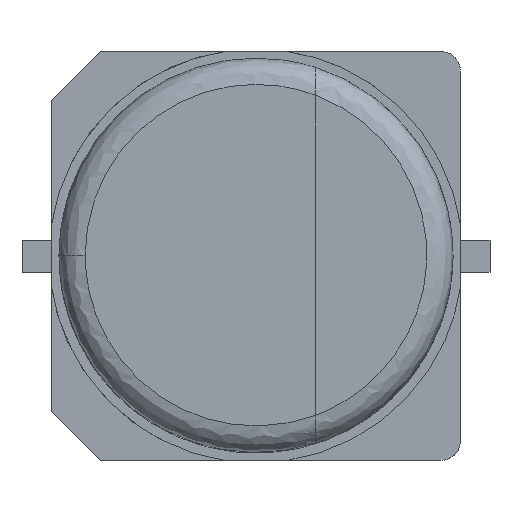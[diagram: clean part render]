
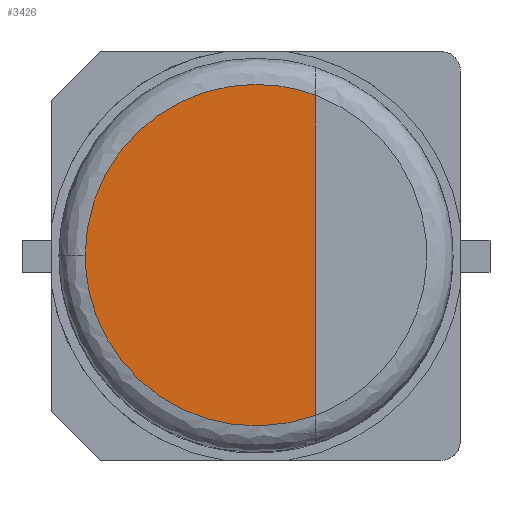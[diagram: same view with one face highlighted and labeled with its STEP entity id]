
A CAD part, top view. The second image highlights one B-rep face of the part: STEP entity #3426.
In plain terms, the highlighted free-form (B-spline) face has degree [1, 1] with [2, 2] control points.
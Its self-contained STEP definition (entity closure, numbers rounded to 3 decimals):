
#2530 = ( BOUNDED_SURFACE() B_SPLINE_SURFACE(2,2,(
    (#2531,#2532,#2533)
    ,(#2534,#2535,#2536)
    ,(#2537,#2538,#2539
)),.UNSPECIFIED.,.F.,.F.,.F.) B_SPLINE_SURFACE_WITH_KNOTS((3,3),(3,3),(
    4.359,6.283),(0.,1.571),
.PIECEWISE_BEZIER_KNOTS.) GEOMETRIC_REPRESENTATION_ITEM() 
RATIONAL_B_SPLINE_SURFACE((
    (1.,0.707,1.)
    ,(0.572,0.404,0.572)
,(1.,0.707,1.))) REPRESENTATION_ITEM('') SURFACE() );
#2531 = CARTESIAN_POINT('',(1.385,3.753,9.656));
#2532 = CARTESIAN_POINT('',(1.385,3.753,10.2));
#2533 = CARTESIAN_POINT('',(1.2,3.252,10.2));
#2534 = CARTESIAN_POINT('',(-4.,5.739,9.656));
#2535 = CARTESIAN_POINT('',(-4.,5.739,10.2));
#2536 = CARTESIAN_POINT('',(-3.467,4.974,10.2));
#2537 = CARTESIAN_POINT('',(-4.,0.,9.656));
#2538 = CARTESIAN_POINT('',(-4.,0.,10.2));
#2539 = CARTESIAN_POINT('',(-3.467,0.,10.2));
#2709 = ( BOUNDED_SURFACE() B_SPLINE_SURFACE(2,2,(
    (#2710,#2711,#2712)
    ,(#2713,#2714,#2715)
    ,(#2716,#2717,#2718
)),.UNSPECIFIED.,.F.,.F.,.F.) B_SPLINE_SURFACE_WITH_KNOTS((3,3),(3,3),(
    0.,1.924),(0.,1.571),.PIECEWISE_BEZIER_KNOTS.) 
GEOMETRIC_REPRESENTATION_ITEM() RATIONAL_B_SPLINE_SURFACE((
    (1.,0.707,1.)
    ,(0.572,0.404,0.572)
,(1.,0.707,1.))) REPRESENTATION_ITEM('') SURFACE() );
#2710 = CARTESIAN_POINT('',(-4.,0.,9.656));
#2711 = CARTESIAN_POINT('',(-4.,0.,10.2));
#2712 = CARTESIAN_POINT('',(-3.467,0.,10.2));
#2713 = CARTESIAN_POINT('',(-4.,-5.739,9.656));
#2714 = CARTESIAN_POINT('',(-4.,-5.739,10.2));
#2715 = CARTESIAN_POINT('',(-3.467,-4.974,10.2));
#2716 = CARTESIAN_POINT('',(1.385,-3.753,9.656));
#2717 = CARTESIAN_POINT('',(1.385,-3.753,10.2));
#2718 = CARTESIAN_POINT('',(1.2,-3.252,10.2));
#3112 = EDGE_CURVE('',#3113,#3115,#3117,.T.);
#3113 = VERTEX_POINT('',#3114);
#3114 = CARTESIAN_POINT('',(-3.467,0.,10.2));
#3115 = VERTEX_POINT('',#3116);
#3116 = CARTESIAN_POINT('',(1.2,3.252,10.2));
#3117 = SURFACE_CURVE('',#3118,(#3122,#3129),.PCURVE_S1.);
#3118 = ( BOUNDED_CURVE() B_SPLINE_CURVE(2,(#3119,#3120,#3121),
.UNSPECIFIED.,.F.,.F.) B_SPLINE_CURVE_WITH_KNOTS((3,3),(0.,
1.924),.PIECEWISE_BEZIER_KNOTS.) CURVE() 
GEOMETRIC_REPRESENTATION_ITEM() RATIONAL_B_SPLINE_CURVE((1.,
0.572,1.)) REPRESENTATION_ITEM('') );
#3119 = CARTESIAN_POINT('',(-3.467,0.,10.2));
#3120 = CARTESIAN_POINT('',(-3.467,4.974,10.2));
#3121 = CARTESIAN_POINT('',(1.2,3.252,10.2));
#3122 = PCURVE('',#2530,#3123);
#3123 = DEFINITIONAL_REPRESENTATION('',(#3124),#3128);
#3124 = B_SPLINE_CURVE_WITH_KNOTS('',2,(#3125,#3126,#3127),
  .UNSPECIFIED.,.F.,.F.,(3,3),(0.,1.924),
  .PIECEWISE_BEZIER_KNOTS.);
#3125 = CARTESIAN_POINT('',(6.283,1.571));
#3126 = CARTESIAN_POINT('',(5.321,1.571));
#3127 = CARTESIAN_POINT('',(4.359,1.571));
#3128 = ( GEOMETRIC_REPRESENTATION_CONTEXT(2) 
PARAMETRIC_REPRESENTATION_CONTEXT() REPRESENTATION_CONTEXT('2D SPACE',''
  ) );
#3129 = PCURVE('',#3130,#3135);
#3130 = B_SPLINE_SURFACE_WITH_KNOTS('',1,1,(
    (#3131,#3132)
    ,(#3133,#3134
    )),.UNSPECIFIED.,.F.,.F.,.F.,(2,2),(2,2),(-1.2,3.467),(
    -3.467,3.467),.PIECEWISE_BEZIER_KNOTS.);
#3131 = CARTESIAN_POINT('',(1.2,-3.467,10.2));
#3132 = CARTESIAN_POINT('',(1.2,3.467,10.2));
#3133 = CARTESIAN_POINT('',(-3.467,-3.467,10.2));
#3134 = CARTESIAN_POINT('',(-3.467,3.467,10.2));
#3135 = DEFINITIONAL_REPRESENTATION('',(#3136),#3140);
#3136 = ( BOUNDED_CURVE() B_SPLINE_CURVE(2,(#3137,#3138,#3139),
.UNSPECIFIED.,.F.,.F.) B_SPLINE_CURVE_WITH_KNOTS((3,3),(0.,
1.924),.PIECEWISE_BEZIER_KNOTS.) CURVE() 
GEOMETRIC_REPRESENTATION_ITEM() RATIONAL_B_SPLINE_CURVE((1.,
0.572,1.)) REPRESENTATION_ITEM('') );
#3137 = CARTESIAN_POINT('',(3.467,0.));
#3138 = CARTESIAN_POINT('',(3.467,4.974));
#3139 = CARTESIAN_POINT('',(-1.2,3.252));
#3140 = ( GEOMETRIC_REPRESENTATION_CONTEXT(2) 
PARAMETRIC_REPRESENTATION_CONTEXT() REPRESENTATION_CONTEXT('2D SPACE',''
  ) );
#3262 = VERTEX_POINT('',#3263);
#3263 = CARTESIAN_POINT('',(1.2,-3.252,10.2));
#3277 = B_SPLINE_SURFACE_WITH_KNOTS('',1,1,(
    (#3278,#3279)
    ,(#3280,#3281
    )),.UNSPECIFIED.,.F.,.F.,.F.,(2,2),(2,2),(0.533,2.8),(
    0.748,7.252),.PIECEWISE_BEZIER_KNOTS.);
#3278 = CARTESIAN_POINT('',(3.467,3.252,10.2));
#3279 = CARTESIAN_POINT('',(3.467,-3.252,10.2));
#3280 = CARTESIAN_POINT('',(1.2,3.252,10.2));
#3281 = CARTESIAN_POINT('',(1.2,-3.252,10.2));
#3390 = EDGE_CURVE('',#3262,#3113,#3391,.T.);
#3391 = SURFACE_CURVE('',#3392,(#3396,#3403),.PCURVE_S1.);
#3392 = ( BOUNDED_CURVE() B_SPLINE_CURVE(2,(#3393,#3394,#3395),
.UNSPECIFIED.,.F.,.F.) B_SPLINE_CURVE_WITH_KNOTS((3,3),(4.359,
6.283),.PIECEWISE_BEZIER_KNOTS.) CURVE() 
GEOMETRIC_REPRESENTATION_ITEM() RATIONAL_B_SPLINE_CURVE((1.,
0.572,1.)) REPRESENTATION_ITEM('') );
#3393 = CARTESIAN_POINT('',(1.2,-3.252,10.2));
#3394 = CARTESIAN_POINT('',(-3.467,-4.974,10.2));
#3395 = CARTESIAN_POINT('',(-3.467,0.,10.2));
#3396 = PCURVE('',#2709,#3397);
#3397 = DEFINITIONAL_REPRESENTATION('',(#3398),#3402);
#3398 = B_SPLINE_CURVE_WITH_KNOTS('',2,(#3399,#3400,#3401),
  .UNSPECIFIED.,.F.,.F.,(3,3),(4.359,6.283),
  .PIECEWISE_BEZIER_KNOTS.);
#3399 = CARTESIAN_POINT('',(1.924,1.571));
#3400 = CARTESIAN_POINT('',(0.962,1.571));
#3401 = CARTESIAN_POINT('',(0.,1.571));
#3402 = ( GEOMETRIC_REPRESENTATION_CONTEXT(2) 
PARAMETRIC_REPRESENTATION_CONTEXT() REPRESENTATION_CONTEXT('2D SPACE',''
  ) );
#3403 = PCURVE('',#3130,#3404);
#3404 = DEFINITIONAL_REPRESENTATION('',(#3405),#3409);
#3405 = ( BOUNDED_CURVE() B_SPLINE_CURVE(2,(#3406,#3407,#3408),
.UNSPECIFIED.,.F.,.F.) B_SPLINE_CURVE_WITH_KNOTS((3,3),(4.359,
6.283),.PIECEWISE_BEZIER_KNOTS.) CURVE() 
GEOMETRIC_REPRESENTATION_ITEM() RATIONAL_B_SPLINE_CURVE((1.,
0.572,1.)) REPRESENTATION_ITEM('') );
#3406 = CARTESIAN_POINT('',(-1.2,-3.252));
#3407 = CARTESIAN_POINT('',(3.467,-4.974));
#3408 = CARTESIAN_POINT('',(3.467,0.));
#3409 = ( GEOMETRIC_REPRESENTATION_CONTEXT(2) 
PARAMETRIC_REPRESENTATION_CONTEXT() REPRESENTATION_CONTEXT('2D SPACE',''
  ) );
#3426 = ADVANCED_FACE('',(#3427),#3130,.F.);
#3427 = FACE_BOUND('',#3428,.F.);
#3428 = EDGE_LOOP('',(#3429,#3430,#3431));
#3429 = ORIENTED_EDGE('',*,*,#3390,.T.);
#3430 = ORIENTED_EDGE('',*,*,#3112,.T.);
#3431 = ORIENTED_EDGE('',*,*,#3432,.T.);
#3432 = EDGE_CURVE('',#3115,#3262,#3433,.T.);
#3433 = SURFACE_CURVE('',#3434,(#3437,#3443),.PCURVE_S1.);
#3434 = B_SPLINE_CURVE_WITH_KNOTS('',1,(#3435,#3436),.UNSPECIFIED.,.F.,
  .F.,(2,2),(0.748,7.252),.PIECEWISE_BEZIER_KNOTS.);
#3435 = CARTESIAN_POINT('',(1.2,3.252,10.2));
#3436 = CARTESIAN_POINT('',(1.2,-3.252,10.2));
#3437 = PCURVE('',#3130,#3438);
#3438 = DEFINITIONAL_REPRESENTATION('',(#3439),#3442);
#3439 = B_SPLINE_CURVE_WITH_KNOTS('',1,(#3440,#3441),.UNSPECIFIED.,.F.,
  .F.,(2,2),(0.748,7.252),.PIECEWISE_BEZIER_KNOTS.);
#3440 = CARTESIAN_POINT('',(-1.2,3.252));
#3441 = CARTESIAN_POINT('',(-1.2,-3.252));
#3442 = ( GEOMETRIC_REPRESENTATION_CONTEXT(2) 
PARAMETRIC_REPRESENTATION_CONTEXT() REPRESENTATION_CONTEXT('2D SPACE',''
  ) );
#3443 = PCURVE('',#3277,#3444);
#3444 = DEFINITIONAL_REPRESENTATION('',(#3445),#3448);
#3445 = B_SPLINE_CURVE_WITH_KNOTS('',1,(#3446,#3447),.UNSPECIFIED.,.F.,
  .F.,(2,2),(0.748,7.252),.PIECEWISE_BEZIER_KNOTS.);
#3446 = CARTESIAN_POINT('',(2.8,0.748));
#3447 = CARTESIAN_POINT('',(2.8,7.252));
#3448 = ( GEOMETRIC_REPRESENTATION_CONTEXT(2) 
PARAMETRIC_REPRESENTATION_CONTEXT() REPRESENTATION_CONTEXT('2D SPACE',''
  ) );
